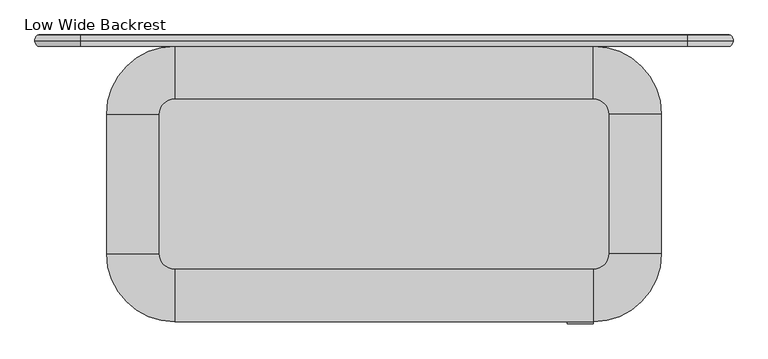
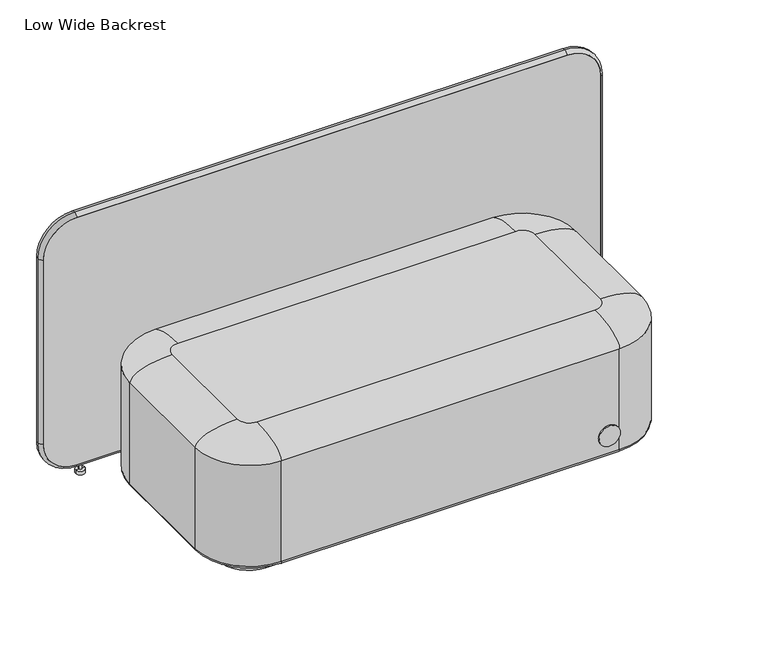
"""IFC4 building model written with IfcOpenShell, lengths in millimetres: furniture geometry, PODLounge  : Low Wide Backrest."""

from ifc_helpers import new_model, si_unit, point, frame, frame_2d, origin, origin_with_axes, place, context, project, spatial, polyline, circle_curve, ellipse_curve, trimmed, segment, composite_curve, outline, extrude, source, transform, mapped, element, save
from ifc_brep_helpers import plane_surface, cylinder_surface, revolved_surface, extruded_surface, advanced_brep


def low_wide_backrest_d1afbaba(model_context):
    return source(origin(), model_context, "Body", "SolidModel", [
        advanced_brep(
        [(-769.9999916, 380.0, 12.0), (-800.0000084, 380.0, 12.0), (-790.0, 380.0, 12.0), (-780.0, 380.0, 12.0), (-790.0, 380.0, 37.4784241), (-780.0, 380.0, 37.4784241), (-785.0, 380.0, 37.4784241), (-785.0, 380.0, 0.0), (-800.0000084, 380.0, 0.0), (-769.9999916, 380.0, 0.0)],
        [
            (0, 1, circle_curve(frame((-785.0, 380.0, 12.0), z_axis=(0.0, 0.0, 1.0), x_axis=(-1.0, 0.0, 0.0)), 15.0000084)),
            (1, 2),
            (2, 3, circle_curve(frame((-785.0, 380.0, 12.0), z_axis=(0.0, 0.0, -1.0), x_axis=(-1.0, 0.0, 0.0)), 5.0)),
            (3, 0),
            (1, 0, circle_curve(frame((-785.0, 380.0, 12.0), z_axis=(0.0, 0.0, 1.0), x_axis=(-1.0, 0.0, 0.0)), 15.0000084)),
            (3, 2, circle_curve(frame((-785.0, 380.0, 12.0), z_axis=(0.0, 0.0, -1.0), x_axis=(-1.0, 0.0, 0.0)), 5.0)),
            (2, 4),
            (4, 5, circle_curve(frame((-785.0, 380.0, 37.4784241), z_axis=(0.0, 0.0, -1.0), x_axis=(-1.0, 0.0, 0.0)), 5.0)),
            (5, 3),
            (5, 4, circle_curve(frame((-785.0, 380.0, 37.4784241), z_axis=(0.0, 0.0, -1.0), x_axis=(-1.0, 0.0, 0.0)), 5.0)),
            (4, 6),
            (6, 5),
            (7, 8),
            (8, 9, circle_curve(frame((-785.0, 380.0, 0.0), z_axis=(0.0, 0.0, -1.0), x_axis=(-1.0, 0.0, 0.0)), 15.0000084)),
            (9, 7),
            (9, 8, circle_curve(frame((-785.0, 380.0, 0.0), z_axis=(0.0, 0.0, -1.0), x_axis=(-1.0, 0.0, 0.0)), 15.0000084)),
            (8, 1),
            (0, 9),
        ],
        [
            plane_surface(frame((-785.0, 380.0, 12.0), z_axis=(0.0, 0.0, 1.0), x_axis=(-1.0, 0.0, 0.0))),
            cylinder_surface(frame((-785.0, 380.0, 37.4784241), z_axis=(0.0, 0.0, -1.0), x_axis=(-1.0, 0.0, 0.0)), 5.0),
            plane_surface(frame((-785.0, 380.0, 37.4784241), z_axis=(0.0, 0.0, 1.0), x_axis=(-1.0, 0.0, 0.0))),
            plane_surface(frame((-785.0, 380.0, 0.0), z_axis=(0.0, 0.0, -1.0), x_axis=(-1.0, 0.0, 0.0))),
            cylinder_surface(frame((-785.0, 380.0, 37.4784241), z_axis=(0.0, 0.0, -1.0), x_axis=(-1.0, 0.0, 0.0)), 15.0000084),
        ],
        [
            (0, [[1, 2, 3, 4]]),
            (0, [[5, -4, 6, -2]]),
            (1, [[-3, 7, 8, 9]]),
            (1, [[-6, -9, 10, -7]]),
            (2, [[-8, 11, 12]]),
            (2, [[-10, -12, -11]]),
            (3, [[13, 14, 15]]),
            (3, [[-15, 16, -13]]),
            (4, [[-14, 17, -1, 18]]),
            (4, [[-16, -18, -5, -17]]),
        ],
    ),
        advanced_brep(
        [(769.9999916, 380.0, 12.0), (780.0, 380.0, 12.0), (790.0, 380.0, 12.0), (800.0000084, 380.0, 12.0), (780.0, 380.0, 37.4784241), (790.0, 380.0, 37.4784241), (785.0, 380.0, 37.4784241), (785.0, 380.0, 0.0), (769.9999916, 380.0, 0.0), (800.0000084, 380.0, 0.0)],
        [
            (0, 1),
            (1, 2, circle_curve(frame((785.0, 380.0, 12.0), z_axis=(0.0, 0.0, -1.0), x_axis=(1.0, 0.0, 0.0)), 5.0)),
            (2, 3),
            (3, 0, circle_curve(frame((785.0, 380.0, 12.0), z_axis=(0.0, 0.0, 1.0), x_axis=(1.0, 0.0, 0.0)), 15.0000084)),
            (2, 1, circle_curve(frame((785.0, 380.0, 12.0), z_axis=(0.0, 0.0, -1.0), x_axis=(1.0, 0.0, 0.0)), 5.0)),
            (0, 3, circle_curve(frame((785.0, 380.0, 12.0), z_axis=(0.0, 0.0, 1.0), x_axis=(1.0, 0.0, 0.0)), 15.0000084)),
            (1, 4),
            (4, 5, circle_curve(frame((785.0, 380.0, 37.4784241), z_axis=(0.0, 0.0, -1.0), x_axis=(1.0, 0.0, 0.0)), 5.0)),
            (5, 2),
            (5, 4, circle_curve(frame((785.0, 380.0, 37.4784241), z_axis=(0.0, 0.0, -1.0), x_axis=(1.0, 0.0, 0.0)), 5.0)),
            (4, 6),
            (6, 5),
            (7, 8),
            (8, 9, circle_curve(frame((785.0, 380.0, 0.0), z_axis=(0.0, 0.0, -1.0), x_axis=(1.0, 0.0, 0.0)), 15.0000084)),
            (9, 7),
            (9, 8, circle_curve(frame((785.0, 380.0, 0.0), z_axis=(0.0, 0.0, -1.0), x_axis=(1.0, 0.0, 0.0)), 15.0000084)),
            (8, 0),
            (3, 9),
        ],
        [
            plane_surface(frame((785.0, 380.0, 12.0), z_axis=(0.0, 0.0, 1.0), x_axis=(1.0, 0.0, 0.0))),
            cylinder_surface(frame((785.0, 380.0, 37.4784241), z_axis=(0.0, 0.0, -1.0), x_axis=(1.0, 0.0, 0.0)), 5.0),
            plane_surface(frame((785.0, 380.0, 37.4784241), z_axis=(0.0, 0.0, 1.0), x_axis=(1.0, 0.0, 0.0))),
            plane_surface(frame((785.0, 380.0, 0.0), z_axis=(0.0, 0.0, -1.0), x_axis=(1.0, 0.0, 0.0))),
            cylinder_surface(frame((785.0, 380.0, 37.4784241), z_axis=(0.0, 0.0, -1.0), x_axis=(1.0, 0.0, 0.0)), 15.0000084),
        ],
        [
            (0, [[1, 2, 3, 4]]),
            (0, [[-3, 5, -1, 6]]),
            (1, [[7, 8, 9, -2]]),
            (1, [[-9, 10, -7, -5]]),
            (2, [[11, 12, -8]]),
            (2, [[-12, -11, -10]]),
            (3, [[13, 14, 15]]),
            (3, [[-15, 16, -13]]),
            (4, [[17, -4, 18, -14]]),
            (4, [[-18, -6, -17, -16]]),
        ],
    ),
        advanced_brep(
        [(915.0, 395.0, 790.0), (915.0, 365.0, 790.0), (805.0, 365.0, 900.0), (805.0, 395.0, 900.0), (915.0, 395.0, 150.0), (915.0, 365.0, 150.0), (805.0, 395.0, 40.0), (805.0, 365.0, 40.0), (-805.0, 395.0, 40.0), (-805.0, 365.0, 40.0), (-915.0, 395.0, 150.0), (-915.0, 365.0, 150.0), (-915.0, 395.0, 790.0), (-915.0, 365.0, 790.0), (-805.0, 395.0, 900.0), (-805.0, 365.0, 900.0), (924.9992342, 379.8143612, 790.0), (805.0, 379.8143612, 909.9992342), (924.9992342, 379.8143612, 150.0), (805.0, 379.8143612, 30.0007658), (-805.0, 379.8143612, 30.0007658), (-924.9992342, 379.8143612, 150.0), (-924.9992342, 379.8143612, 790.0), (-805.0, 379.8143612, 909.9992342)],
        [
            (0, 1),
            (1, 2, circle_curve(frame((805.0, 365.0, 790.0), z_axis=(0.0, -1.0, 0.0), x_axis=(0.0, 0.0, 1.0)), 110.0)),
            (2, 3),
            (3, 0, circle_curve(frame((805.0, 395.0, 790.0), z_axis=(0.0, 1.0, 0.0), x_axis=(0.0, 0.0, 1.0)), 110.0)),
            (0, 4),
            (4, 5),
            (5, 1),
            (6, 7),
            (7, 5, circle_curve(frame((805.0, 365.0, 150.0), z_axis=(0.0, -1.0, 0.0), x_axis=(1.0, 0.0, 0.0)), 110.0)),
            (4, 6, circle_curve(frame((805.0, 395.0, 150.0), z_axis=(0.0, 1.0, 0.0), x_axis=(1.0, 0.0, 0.0)), 110.0)),
            (6, 8),
            (8, 9),
            (9, 7),
            (10, 11),
            (11, 9, circle_curve(frame((-805.0, 365.0, 150.0), z_axis=(0.0, -1.0, 0.0), x_axis=(0.0, 0.0, -1.0)), 110.0)),
            (8, 10, circle_curve(frame((-805.0, 395.0, 150.0), z_axis=(0.0, 1.0, 0.0), x_axis=(0.0, 0.0, -1.0)), 110.0)),
            (10, 12),
            (12, 13),
            (13, 11),
            (14, 15),
            (15, 13, circle_curve(frame((-805.0, 365.0, 790.0), z_axis=(0.0, -1.0, 0.0), x_axis=(-1.0, 0.0, 0.0)), 110.0)),
            (12, 14, circle_curve(frame((-805.0, 395.0, 790.0), z_axis=(0.0, 1.0, 0.0), x_axis=(-1.0, 0.0, 0.0)), 110.0)),
            (14, 3),
            (2, 15),
            (16, 0, ellipse_curve(frame((915.0, 380.0, 790.0), z_axis=(0.0, 0.0, 1.0), x_axis=(0.0, 1.0, 0.0)), 15.0, 10.0)),
            (3, 17, ellipse_curve(frame((805.0, 380.0, 900.0), z_axis=(1.0, 0.0, 0.0), x_axis=(0.0, 1.0, 0.0)), 15.0, 10.0)),
            (17, 16, circle_curve(frame((805.0, 379.8143612, 790.0), z_axis=(0.0, 1.0, 0.0), x_axis=(0.0, 0.0, 1.0)), 119.9992342)),
            (1, 16, ellipse_curve(frame((915.0, 380.0, 790.0), z_axis=(0.0, 0.0, 1.0), x_axis=(0.0, 1.0, 0.0)), 15.0, 10.0)),
            (17, 2, ellipse_curve(frame((805.0, 380.0, 900.0), z_axis=(1.0, 0.0, 0.0), x_axis=(0.0, 1.0, 0.0)), 15.0, 10.0)),
            (16, 18),
            (18, 4, ellipse_curve(frame((915.0, 380.0, 150.0), z_axis=(0.0, 0.0, 1.0), x_axis=(0.0, 1.0, 0.0)), 15.0, 10.0)),
            (5, 18, ellipse_curve(frame((915.0, 380.0, 150.0), z_axis=(0.0, 0.0, 1.0), x_axis=(0.0, 1.0, 0.0)), 15.0, 10.0)),
            (19, 6, ellipse_curve(frame((805.0, 380.0, 40.0), z_axis=(1.0, 0.0, 0.0), x_axis=(0.0, 1.0, 0.0)), 15.0, 10.0)),
            (18, 19, circle_curve(frame((805.0, 379.8143612, 150.0), z_axis=(0.0, 1.0, 0.0), x_axis=(1.0, 0.0, 0.0)), 119.9992342)),
            (7, 19, ellipse_curve(frame((805.0, 380.0, 40.0), z_axis=(1.0, 0.0, 0.0), x_axis=(0.0, 1.0, 0.0)), 15.0, 10.0)),
            (19, 20),
            (20, 8, ellipse_curve(frame((-805.0, 380.0, 40.0), z_axis=(1.0, 0.0, 0.0), x_axis=(0.0, 1.0, 0.0)), 15.0, 10.0)),
            (9, 20, ellipse_curve(frame((-805.0, 380.0, 40.0), z_axis=(1.0, 0.0, 0.0), x_axis=(0.0, 1.0, 0.0)), 15.0, 10.0)),
            (21, 10, ellipse_curve(frame((-915.0, 380.0, 150.0), z_axis=(0.0, 0.0, -1.0), x_axis=(0.0, 1.0, 0.0)), 15.0, 10.0)),
            (20, 21, circle_curve(frame((-805.0, 379.8143612, 150.0), z_axis=(0.0, 1.0, 0.0), x_axis=(0.0, 0.0, -1.0)), 119.9992342)),
            (11, 21, ellipse_curve(frame((-915.0, 380.0, 150.0), z_axis=(0.0, 0.0, -1.0), x_axis=(0.0, 1.0, 0.0)), 15.0, 10.0)),
            (21, 22),
            (22, 12, ellipse_curve(frame((-915.0, 380.0, 790.0), z_axis=(0.0, 0.0, -1.0), x_axis=(0.0, 1.0, 0.0)), 15.0, 10.0)),
            (13, 22, ellipse_curve(frame((-915.0, 380.0, 790.0), z_axis=(0.0, 0.0, -1.0), x_axis=(0.0, 1.0, 0.0)), 15.0, 10.0)),
            (23, 14, ellipse_curve(frame((-805.0, 380.0, 900.0), z_axis=(-1.0, 0.0, 0.0), x_axis=(0.0, 1.0, 0.0)), 15.0, 10.0)),
            (22, 23, circle_curve(frame((-805.0, 379.8143612, 790.0), z_axis=(0.0, 1.0, 0.0), x_axis=(-1.0, 0.0, 0.0)), 119.9992342)),
            (15, 23, ellipse_curve(frame((-805.0, 380.0, 900.0), z_axis=(-1.0, 0.0, 0.0), x_axis=(0.0, 1.0, 0.0)), 15.0, 10.0)),
            (23, 17),
        ],
        [
            revolved_surface(polyline([(805.0, 365.0, 900.0), (805.0, 395.0, 900.0)]), (805.0, 395.0, 790.0), (0.0, -1.0, 0.0)),
            plane_surface(frame((915.0, 365.0, 790.0), z_axis=(-1.0, 0.0, 0.0), x_axis=(0.0, 0.0, -1.0))),
            revolved_surface(polyline([(915.0, 365.0, 150.0), (915.0, 395.0, 150.0)]), (805.0, 395.0, 150.0), (0.0, -1.0, 0.0)),
            plane_surface(frame((805.0, 365.0, 40.0), z_axis=(0.0, 0.0, 1.0), x_axis=(-1.0, 0.0, 0.0))),
            revolved_surface(polyline([(-805.0, 365.0, 40.0), (-805.0, 395.0, 40.0)]), (-805.0, 395.0, 150.0), (0.0, -1.0, 0.0)),
            plane_surface(frame((-915.0, 365.0, 150.0), z_axis=(1.0, 0.0, 0.0), x_axis=(0.0, 0.0, 1.0))),
            revolved_surface(polyline([(-915.0, 365.0, 790.0), (-915.0, 395.0, 790.0)]), (-805.0, 395.0, 790.0), (0.0, -1.0, 0.0)),
            plane_surface(frame((-805.0, 365.0, 900.0), z_axis=(0.0, 0.0, -1.0), x_axis=(1.0, 0.0, 0.0))),
            revolved_surface(trimmed(ellipse_curve(frame((805.0, 380.0, 900.0), z_axis=(1.0, 0.0, 0.0), x_axis=(0.0, 1.0, 0.0)), 15.0, 10.0), [point((805.0, 395.0, 900.0))], [point((805.0, 379.8143612, 909.9992342))], True, "CARTESIAN"), (805.0, 395.0, 790.0), (0.0, -1.0, 0.0)),
            revolved_surface(trimmed(ellipse_curve(frame((805.0, 380.0, 900.0), z_axis=(1.0, 0.0, 0.0), x_axis=(0.0, 1.0, 0.0)), 15.0, 10.0), [point((805.0, 379.8143612, 909.9992342))], [point((805.0, 365.0, 900.0))], True, "CARTESIAN"), (805.0, 395.0, 790.0), (0.0, -1.0, 0.0)),
            extruded_surface(trimmed(ellipse_curve(frame((915.0, 380.0, 790.0), z_axis=(0.0, 0.0, -1.0), x_axis=(0.0, 1.0, 0.0)), 15.0, 10.0), [point((915.0, 395.0, 790.0))], [point((924.9992342, 379.8143612, 790.0))], True, "CARTESIAN"), (0.0, 0.0, -640.0), 640.0),
            extruded_surface(trimmed(ellipse_curve(frame((915.0, 380.0, 790.0), z_axis=(0.0, 0.0, -1.0), x_axis=(0.0, 1.0, 0.0)), 15.0, 10.0), [point((924.9992342, 379.8143612, 790.0))], [point((915.0, 365.0, 790.0))], True, "CARTESIAN"), (0.0, 0.0, -640.0), 640.0),
            revolved_surface(trimmed(ellipse_curve(frame((915.0, 380.0, 150.0), z_axis=(0.0, 0.0, -1.0), x_axis=(0.0, 1.0, 0.0)), 15.0, 10.0), [point((915.0, 395.0, 150.0))], [point((924.9992342, 379.8143612, 150.0))], True, "CARTESIAN"), (805.0, 395.0, 150.0), (0.0, -1.0, 0.0)),
            revolved_surface(trimmed(ellipse_curve(frame((915.0, 380.0, 150.0), z_axis=(0.0, 0.0, -1.0), x_axis=(0.0, 1.0, 0.0)), 15.0, 10.0), [point((924.9992342, 379.8143612, 150.0))], [point((915.0, 365.0, 150.0))], True, "CARTESIAN"), (805.0, 395.0, 150.0), (0.0, -1.0, 0.0)),
            extruded_surface(trimmed(ellipse_curve(frame((805.0, 380.0, 40.0), z_axis=(-1.0, 0.0, 0.0), x_axis=(0.0, 1.0, 0.0)), 15.0, 10.0), [point((805.0, 395.0, 40.0))], [point((805.0, 379.8143612, 30.0007658))], True, "CARTESIAN"), (-1610.0, 0.0, 0.0), 1610.0),
            extruded_surface(trimmed(ellipse_curve(frame((805.0, 380.0, 40.0), z_axis=(-1.0, 0.0, 0.0), x_axis=(0.0, 1.0, 0.0)), 15.0, 10.0), [point((805.0, 379.8143612, 30.0007658))], [point((805.0, 365.0, 40.0))], True, "CARTESIAN"), (-1610.0, 0.0, 0.0), 1610.0),
            revolved_surface(trimmed(ellipse_curve(frame((-805.0, 380.0, 40.0), z_axis=(-1.0, 0.0, 0.0), x_axis=(0.0, 1.0, 0.0)), 15.0, 10.0), [point((-805.0, 395.0, 40.0))], [point((-805.0, 379.8143612, 30.0007658))], True, "CARTESIAN"), (-805.0, 395.0, 150.0), (0.0, -1.0, 0.0)),
            revolved_surface(trimmed(ellipse_curve(frame((-805.0, 380.0, 40.0), z_axis=(-1.0, 0.0, 0.0), x_axis=(0.0, 1.0, 0.0)), 15.0, 10.0), [point((-805.0, 379.8143612, 30.0007658))], [point((-805.0, 365.0, 40.0))], True, "CARTESIAN"), (-805.0, 395.0, 150.0), (0.0, -1.0, 0.0)),
            extruded_surface(trimmed(ellipse_curve(frame((-915.0, 380.0, 150.0), z_axis=(0.0, 0.0, 1.0), x_axis=(0.0, 1.0, 0.0)), 15.0, 10.0), [point((-915.0, 395.0, 150.0))], [point((-924.9992342, 379.8143612, 150.0))], True, "CARTESIAN"), (0.0, 0.0, 640.0), 640.0),
            extruded_surface(trimmed(ellipse_curve(frame((-915.0, 380.0, 150.0), z_axis=(0.0, 0.0, 1.0), x_axis=(0.0, 1.0, 0.0)), 15.0, 10.0), [point((-924.9992342, 379.8143612, 150.0))], [point((-915.0, 365.0, 150.0))], True, "CARTESIAN"), (0.0, 0.0, 640.0), 640.0),
            revolved_surface(trimmed(ellipse_curve(frame((-915.0, 380.0, 790.0), z_axis=(0.0, 0.0, 1.0), x_axis=(0.0, 1.0, 0.0)), 15.0, 10.0), [point((-915.0, 395.0, 790.0))], [point((-924.9992342, 379.8143612, 790.0))], True, "CARTESIAN"), (-805.0, 395.0, 790.0), (0.0, -1.0, 0.0)),
            revolved_surface(trimmed(ellipse_curve(frame((-915.0, 380.0, 790.0), z_axis=(0.0, 0.0, 1.0), x_axis=(0.0, 1.0, 0.0)), 15.0, 10.0), [point((-924.9992342, 379.8143612, 790.0))], [point((-915.0, 365.0, 790.0))], True, "CARTESIAN"), (-805.0, 395.0, 790.0), (0.0, -1.0, 0.0)),
            extruded_surface(trimmed(ellipse_curve(frame((-805.0, 380.0, 900.0), z_axis=(1.0, 0.0, 0.0), x_axis=(0.0, 1.0, 0.0)), 15.0, 10.0), [point((-805.0, 395.0, 900.0))], [point((-805.0, 379.8143612, 909.9992342))], True, "CARTESIAN"), (1610.0, 0.0, 0.0), 1610.0),
            extruded_surface(trimmed(ellipse_curve(frame((-805.0, 380.0, 900.0), z_axis=(1.0, 0.0, 0.0), x_axis=(0.0, 1.0, 0.0)), 15.0, 10.0), [point((-805.0, 379.8143612, 909.9992342))], [point((-805.0, 365.0, 900.0))], True, "CARTESIAN"), (1610.0, 0.0, 0.0), 1610.0),
        ],
        [
            (0, [[1, 2, 3, 4]]),
            (1, [[5, 6, 7, -1]]),
            (2, [[8, 9, -6, 10]]),
            (3, [[11, 12, 13, -8]]),
            (4, [[14, 15, -12, 16]]),
            (5, [[17, 18, 19, -14]]),
            (6, [[20, 21, -18, 22]]),
            (7, [[23, -3, 24, -20]]),
            (8, [[25, -4, 26, 27]]),
            (9, [[28, -27, 29, -2]]),
            (10, [[30, 31, -5, -25]]),
            (11, [[-7, 32, -30, -28]]),
            (12, [[33, -10, -31, 34]]),
            (13, [[35, -34, -32, -9]]),
            (14, [[36, 37, -11, -33]]),
            (15, [[-13, 38, -36, -35]]),
            (16, [[39, -16, -37, 40]]),
            (17, [[41, -40, -38, -15]]),
            (18, [[42, 43, -17, -39]]),
            (19, [[-19, 44, -42, -41]]),
            (20, [[45, -22, -43, 46]]),
            (21, [[47, -46, -44, -21]]),
            (22, [[48, -26, -23, -45]]),
            (23, [[-24, -29, -48, -47]]),
        ],
    ),
        extrude(outline(composite_curve([segment(polyline([(900.0, 805.0), (900.0, -805.0)]), True, "CONTINUOUS"), segment(trimmed(circle_curve(frame_2d((790.0, -805.0)), 110.0), [point((900.0, -805.0))], [point((790.0, -915.0))], False, "CARTESIAN"), True, "CONTINUOUS"), segment(polyline([(790.0, -915.0), (150.0, -915.0)]), True, "CONTINUOUS"), segment(trimmed(circle_curve(frame_2d((150.0, -805.0)), 110.0), [point((150.0, -915.0))], [point((40.0, -805.0))], False, "CARTESIAN"), True, "CONTINUOUS"), segment(polyline([(40.0, -805.0), (40.0, 805.0)]), True, "CONTINUOUS"), segment(trimmed(circle_curve(frame_2d((150.0, 805.0)), 110.0), [point((40.0, 805.0))], [point((150.0, 915.0))], False, "CARTESIAN"), True, "CONTINUOUS"), segment(polyline([(150.0, 915.0), (790.0, 915.0)]), True, "CONTINUOUS"), segment(trimmed(circle_curve(frame_2d((790.0, 805.0)), 110.0), [point((790.0, 915.0))], [point((900.0, 805.0))], False, "CARTESIAN"), True, "CONTINUOUS")], self_intersect=False)), frame((0.0, 365.0, 0.0), z_axis=(0.0, 1.0, 0.0), x_axis=(0.0, 0.0, 1.0)), (0.0, 0.0, 1.0), 30.0),
        advanced_brep(
        [(-555.0, 225.0, 460.0), (-595.0, 185.0, 460.0), (-595.0, -185.0, 460.0), (-555.0, -225.0, 460.0), (555.0, -225.0, 460.0), (595.0, -185.0, 460.0), (595.0, 185.0, 460.0), (555.0, 225.0, 460.0), (-725.0, 185.0, 50.0), (-555.0, 355.0, 50.0), (555.0, 355.0, 50.0), (725.0, 185.0, 50.0), (725.0, -185.0, 50.0), (555.0, -355.0, 50.0), (-555.0, -355.0, 50.0), (-725.0, -185.0, 50.0), (555.0, -365.0, 410.0), (555.0, -365.0, 60.0), (735.0, -185.0, 60.0), (735.0, -185.0, 410.0), (735.0, 185.0, 60.0), (735.0, 185.0, 410.0), (555.0, 365.0, 60.0), (555.0, 365.0, 410.0), (-555.0, 365.0, 60.0), (-555.0, 365.0, 410.0), (-735.0, 185.0, 410.0), (-735.0, 185.0, 60.0), (-735.0, -185.0, 60.0), (-735.0, -185.0, 410.0), (-555.0, -365.0, 410.0), (-555.0, -365.0, 60.0)],
        [
            (0, 1, circle_curve(frame((-555.0, 185.0, 460.0), z_axis=(0.0, 0.0, 1.0), x_axis=(0.0, 1.0, 0.0)), 40.0)),
            (1, 2),
            (2, 3, circle_curve(frame((-555.0, -185.0, 460.0), z_axis=(0.0, 0.0, 1.0), x_axis=(-1.0, 0.0, 0.0)), 40.0)),
            (3, 4),
            (4, 5, circle_curve(frame((555.0, -185.0, 460.0), z_axis=(0.0, 0.0, 1.0), x_axis=(0.0, -1.0, 0.0)), 40.0)),
            (5, 6),
            (6, 7, circle_curve(frame((555.0, 185.0, 460.0), z_axis=(0.0, 0.0, 1.0), x_axis=(1.0, 0.0, 0.0)), 40.0)),
            (7, 0),
            (8, 9, circle_curve(frame((-555.0, 185.0, 50.0), z_axis=(0.0, 0.0, -1.0), x_axis=(0.0, 1.0, 0.0)), 170.0)),
            (9, 10),
            (10, 11, circle_curve(frame((555.0, 185.0, 50.0), z_axis=(0.0, 0.0, -1.0), x_axis=(1.0, 0.0, 0.0)), 170.0)),
            (11, 12),
            (12, 13, circle_curve(frame((555.0, -185.0, 50.0), z_axis=(0.0, 0.0, -1.0), x_axis=(0.0, -1.0, 0.0)), 170.0)),
            (13, 14),
            (14, 15, circle_curve(frame((-555.0, -185.0, 50.0), z_axis=(0.0, 0.0, -1.0), x_axis=(-1.0, 0.0, 0.0)), 170.0)),
            (15, 8),
            (16, 17),
            (17, 18, circle_curve(frame((555.0, -185.0, 60.0), z_axis=(0.0, 0.0, 1.0), x_axis=(1.0, 0.0, 0.0)), 180.0)),
            (18, 19),
            (19, 16, circle_curve(frame((555.0, -185.0, 410.0), z_axis=(0.0, 0.0, -1.0), x_axis=(1.0, 0.0, 0.0)), 180.0)),
            (18, 20),
            (20, 21),
            (21, 19),
            (20, 22, circle_curve(frame((555.0, 185.0, 60.0), z_axis=(0.0, 0.0, 1.0), x_axis=(1.0, 0.0, 0.0)), 180.0)),
            (22, 23),
            (23, 21, circle_curve(frame((555.0, 185.0, 410.0), z_axis=(0.0, 0.0, -1.0), x_axis=(1.0, 0.0, 0.0)), 180.0)),
            (22, 24),
            (24, 25),
            (25, 23),
            (26, 27),
            (27, 28),
            (28, 29),
            (29, 26),
            (16, 30),
            (30, 31),
            (31, 17),
            (26, 25, circle_curve(frame((-555.0, 185.0, 410.0), z_axis=(0.0, 0.0, -1.0), x_axis=(1.0, 0.0, 0.0)), 180.0)),
            (24, 27, circle_curve(frame((-555.0, 185.0, 60.0), z_axis=(0.0, 0.0, 1.0), x_axis=(1.0, 0.0, 0.0)), 180.0)),
            (30, 29, circle_curve(frame((-555.0, -185.0, 410.0), z_axis=(0.0, 0.0, -1.0), x_axis=(1.0, 0.0, 0.0)), 180.0)),
            (28, 31, circle_curve(frame((-555.0, -185.0, 60.0), z_axis=(0.0, 0.0, 1.0), x_axis=(1.0, 0.0, 0.0)), 180.0)),
            (26, 1, ellipse_curve(frame((-595.0, 185.0, 410.0), z_axis=(0.0, 1.0, 0.0), x_axis=(-1.0, 0.0, 0.0)), 140.0, 50.0)),
            (0, 25, ellipse_curve(frame((-555.0, 225.0, 410.0), z_axis=(-1.0, 0.0, 0.0), x_axis=(0.0, 1.0, 0.0)), 140.0, 50.0)),
            (29, 2, ellipse_curve(frame((-595.0, -185.0, 410.0), z_axis=(0.0, 1.0, 0.0), x_axis=(-1.0, 0.0, 0.0)), 140.0, 50.0)),
            (30, 3, ellipse_curve(frame((-555.0, -225.0, 410.0), z_axis=(-1.0, 0.0, 0.0), x_axis=(0.0, -1.0, 0.0)), 140.0, 50.0)),
            (16, 4, ellipse_curve(frame((555.0, -225.0, 410.0), z_axis=(-1.0, 0.0, 0.0), x_axis=(0.0, -1.0, 0.0)), 140.0, 50.0)),
            (19, 5, ellipse_curve(frame((595.0, -185.0, 410.0), z_axis=(0.0, -1.0, 0.0), x_axis=(1.0, 0.0, 0.0)), 140.0, 50.0)),
            (21, 6, ellipse_curve(frame((595.0, 185.0, 410.0), z_axis=(0.0, -1.0, 0.0), x_axis=(1.0, 0.0, 0.0)), 140.0, 50.0)),
            (23, 7, ellipse_curve(frame((555.0, 225.0, 410.0), z_axis=(1.0, 0.0, 0.0), x_axis=(0.0, 1.0, 0.0)), 140.0, 50.0)),
            (8, 27, circle_curve(frame((-725.0, 185.0, 60.0), z_axis=(0.0, 1.0, 0.0), x_axis=(1.0, 0.0, 0.0)), 10.0)),
            (24, 9, circle_curve(frame((-555.0, 355.0, 60.0), z_axis=(-1.0, 0.0, 0.0), x_axis=(0.0, -1.0, 0.0)), 10.0)),
            (15, 28, circle_curve(frame((-725.0, -185.0, 60.0), z_axis=(0.0, 1.0, 0.0), x_axis=(1.0, 0.0, 0.0)), 10.0)),
            (14, 31, circle_curve(frame((-555.0, -355.0, 60.0), z_axis=(-1.0, 0.0, 0.0), x_axis=(0.0, 1.0, 0.0)), 10.0)),
            (13, 17, circle_curve(frame((555.0, -355.0, 60.0), z_axis=(-1.0, 0.0, 0.0), x_axis=(0.0, 1.0, 0.0)), 10.0)),
            (12, 18, circle_curve(frame((725.0, -185.0, 60.0), z_axis=(0.0, -1.0, 0.0), x_axis=(-1.0, 0.0, 0.0)), 10.0)),
            (11, 20, circle_curve(frame((725.0, 185.0, 60.0), z_axis=(0.0, -1.0, 0.0), x_axis=(-1.0, 0.0, 0.0)), 10.0)),
            (10, 22, circle_curve(frame((555.0, 355.0, 60.0), z_axis=(1.0, 0.0, 0.0), x_axis=(0.0, -1.0, 0.0)), 10.0)),
        ],
        [
            plane_surface(frame((735.0, -185.0, 460.0), z_axis=(0.0, 0.0, 1.0), x_axis=(0.0, 1.0, 0.0))),
            plane_surface(frame((735.0, -185.0, 50.0), z_axis=(0.0, 0.0, -1.0), x_axis=(0.0, -1.0, 0.0))),
            cylinder_surface(frame((555.0, -185.0, 50.0), z_axis=(0.0, 0.0, 1.0), x_axis=(1.0, 0.0, 0.0)), 180.0),
            plane_surface(frame((735.0, -185.0, 460.0), z_axis=(1.0, 0.0, 0.0), x_axis=(0.0, 0.0, -1.0))),
            cylinder_surface(frame((555.0, 185.0, 50.0), z_axis=(0.0, 0.0, 1.0), x_axis=(1.0, 0.0, 0.0)), 180.0),
            plane_surface(frame((555.0, 365.0, 460.0), z_axis=(0.0, 1.0, 0.0), x_axis=(0.0, 0.0, -1.0))),
            plane_surface(frame((-735.0, 185.0, 460.0), z_axis=(-1.0, 0.0, 0.0), x_axis=(0.0, 0.0, -1.0))),
            plane_surface(frame((-555.0, -365.0, 460.0), z_axis=(0.0, -1.0, 0.0), x_axis=(0.0, 0.0, -1.0))),
            cylinder_surface(frame((-555.0, 185.0, 50.0), z_axis=(0.0, 0.0, 1.0), x_axis=(1.0, 0.0, 0.0)), 180.0),
            cylinder_surface(frame((-555.0, -185.0, 50.0), z_axis=(0.0, 0.0, 1.0), x_axis=(1.0, 0.0, 0.0)), 180.0),
            revolved_surface(trimmed(ellipse_curve(frame((-555.0, 225.0, 410.0), z_axis=(1.0, 0.0, 0.0), x_axis=(0.0, 1.0, 0.0)), 140.0, 50.0), [point((-555.0, 365.0, 410.0))], [point((-555.0, 225.0, 460.0))], True, "CARTESIAN"), (-555.0, 185.0, 0.0), (0.0, 0.0, 1.0)),
            extruded_surface(trimmed(ellipse_curve(frame((-595.0, 185.0, 410.0), z_axis=(0.0, -1.0, 0.0), x_axis=(-1.0, 0.0, 0.0)), 140.0, 50.0), [point((-595.0, 185.0, 460.0))], [point((-735.0, 185.0, 410.0))], True, "CARTESIAN"), (0.0, -370.0, 0.0), 370.0),
            revolved_surface(trimmed(ellipse_curve(frame((-595.0, -185.0, 410.0), z_axis=(0.0, 1.0, 0.0), x_axis=(-1.0, 0.0, 0.0)), 140.0, 50.0), [point((-735.0, -185.0, 410.0))], [point((-595.0, -185.0, 460.0))], True, "CARTESIAN"), (-555.0, -185.0, 0.0), (0.0, 0.0, 1.0)),
            extruded_surface(trimmed(ellipse_curve(frame((-555.0, -225.0, 410.0), z_axis=(1.0, 0.0, 0.0), x_axis=(0.0, -1.0, 0.0)), 140.0, 50.0), [point((-555.0, -225.0, 460.0))], [point((-555.0, -365.0, 410.0))], True, "CARTESIAN"), (1110.0, 0.0, 0.0), 1110.0),
            revolved_surface(trimmed(ellipse_curve(frame((555.0, -225.0, 410.0), z_axis=(-1.0, 0.0, 0.0), x_axis=(0.0, -1.0, 0.0)), 140.0, 50.0), [point((555.0, -365.0, 410.0))], [point((555.0, -225.0, 460.0))], True, "CARTESIAN"), (555.0, -185.0, 0.0), (0.0, 0.0, 1.0)),
            extruded_surface(trimmed(ellipse_curve(frame((595.0, -185.0, 410.0), z_axis=(0.0, 1.0, 0.0), x_axis=(1.0, 0.0, 0.0)), 140.0, 50.0), [point((595.0, -185.0, 460.0))], [point((735.0, -185.0, 410.0))], True, "CARTESIAN"), (0.0, 370.0, 0.0), 370.0),
            revolved_surface(trimmed(ellipse_curve(frame((595.0, 185.0, 410.0), z_axis=(0.0, -1.0, 0.0), x_axis=(1.0, 0.0, 0.0)), 140.0, 50.0), [point((735.0, 185.0, 410.0))], [point((595.0, 185.0, 460.0))], True, "CARTESIAN"), (555.0, 185.0, 0.0), (0.0, 0.0, 1.0)),
            extruded_surface(trimmed(ellipse_curve(frame((555.0, 225.0, 410.0), z_axis=(-1.0, 0.0, 0.0), x_axis=(0.0, 1.0, 0.0)), 140.0, 50.0), [point((555.0, 225.0, 460.0))], [point((555.0, 365.0, 410.0))], True, "CARTESIAN"), (-1110.0, 0.0, 0.0), 1110.0),
            revolved_surface(trimmed(ellipse_curve(frame((-555.0, 355.0, 60.0), z_axis=(1.0, 0.0, 0.0), x_axis=(0.0, -1.0, 0.0)), 10.0, 10.0), [point((-555.0, 355.0, 50.0))], [point((-555.0, 365.0, 60.0))], True, "CARTESIAN"), (-555.0, 185.0, 0.0), (0.0, 0.0, 1.0)),
            cylinder_surface(frame((-725.0, 185.0, 60.0), z_axis=(0.0, -1.0, 0.0), x_axis=(1.0, 0.0, 0.0)), 10.0),
            revolved_surface(trimmed(ellipse_curve(frame((-725.0, -185.0, 60.0), z_axis=(0.0, 1.0, 0.0), x_axis=(1.0, 0.0, 0.0)), 10.0, 10.0), [point((-725.0, -185.0, 50.0))], [point((-735.0, -185.0, 60.0))], True, "CARTESIAN"), (-555.0, -185.0, 0.0), (0.0, 0.0, 1.0)),
            cylinder_surface(frame((-555.0, -355.0, 60.0), z_axis=(1.0, 0.0, 0.0), x_axis=(0.0, 1.0, 0.0)), 10.0),
            revolved_surface(trimmed(ellipse_curve(frame((555.0, -355.0, 60.0), z_axis=(-1.0, 0.0, 0.0), x_axis=(0.0, 1.0, 0.0)), 10.0, 10.0), [point((555.0, -355.0, 50.0))], [point((555.0, -365.0, 60.0))], True, "CARTESIAN"), (555.0, -185.0, 0.0), (0.0, 0.0, 1.0)),
            cylinder_surface(frame((725.0, -185.0, 60.0), z_axis=(0.0, 1.0, 0.0), x_axis=(-1.0, 0.0, 0.0)), 10.0),
            revolved_surface(trimmed(ellipse_curve(frame((725.0, 185.0, 60.0), z_axis=(0.0, -1.0, 0.0), x_axis=(-1.0, 0.0, 0.0)), 10.0, 10.0), [point((725.0, 185.0, 50.0))], [point((735.0, 185.0, 60.0))], True, "CARTESIAN"), (555.0, 185.0, 0.0), (0.0, 0.0, 1.0)),
            cylinder_surface(frame((555.0, 355.0, 60.0), z_axis=(-1.0, 0.0, 0.0), x_axis=(0.0, -1.0, 0.0)), 10.0),
        ],
        [
            (0, [[1, 2, 3, 4, 5, 6, 7, 8]]),
            (1, [[9, 10, 11, 12, 13, 14, 15, 16]]),
            (2, [[17, 18, 19, 20]]),
            (3, [[-19, 21, 22, 23]]),
            (4, [[-22, 24, 25, 26]]),
            (5, [[-25, 27, 28, 29]]),
            (6, [[30, 31, 32, 33]]),
            (7, [[-17, 34, 35, 36]]),
            (8, [[-30, 37, -28, 38]]),
            (9, [[-35, 39, -32, 40]]),
            (10, [[41, -1, 42, -37]]),
            (11, [[-41, -33, 43, -2]]),
            (12, [[-43, -39, 44, -3]]),
            (13, [[-44, -34, 45, -4]]),
            (14, [[-45, -20, 46, -5]]),
            (15, [[-46, -23, 47, -6]]),
            (16, [[-47, -26, 48, -7]]),
            (17, [[-42, -8, -48, -29]]),
            (18, [[49, -38, 50, -9]]),
            (19, [[-49, -16, 51, -31]]),
            (20, [[-51, -15, 52, -40]]),
            (21, [[-52, -14, 53, -36]]),
            (22, [[-53, -13, 54, -18]]),
            (23, [[-54, -12, 55, -21]]),
            (24, [[-55, -11, 56, -24]]),
            (25, [[-50, -27, -56, -10]]),
        ],
    ),
        extrude(outline(composite_curve([segment(polyline([(565.0, -295.0), (-565.0, -295.0)]), True, "CONTINUOUS"), segment(trimmed(circle_curve(frame_2d((-565.0, -195.0)), 100.0), [point((-565.0, -295.0))], [point((-665.0, -195.0))], False, "CARTESIAN"), True, "CONTINUOUS"), segment(polyline([(-665.0, -195.0), (-665.0, 195.0)]), True, "CONTINUOUS"), segment(trimmed(circle_curve(frame_2d((-565.0, 195.0)), 100.0), [point((-665.0, 195.0))], [point((-565.0, 295.0))], False, "CARTESIAN"), True, "CONTINUOUS"), segment(polyline([(-565.0, 295.0), (565.0, 295.0)]), True, "CONTINUOUS"), segment(trimmed(circle_curve(frame_2d((565.0, 195.0)), 100.0), [point((565.0, 295.0))], [point((665.0, 195.0))], False, "CARTESIAN"), True, "CONTINUOUS"), segment(polyline([(665.0, 195.0), (665.0, -195.0)]), True, "CONTINUOUS"), segment(trimmed(circle_curve(frame_2d((565.0, -195.0)), 100.0), [point((665.0, -195.0))], [point((565.0, -295.0))], False, "CARTESIAN"), True, "CONTINUOUS")], self_intersect=False)), origin_with_axes(), (0.0, 0.0, 1.0), 50.0),
        extrude(outline(composite_curve([segment(trimmed(circle_curve(frame_2d((122.8625944, 520.0)), 35.0), [point((122.8625944, 555.0))], [point((122.8625944, 485.0))], False, "CARTESIAN"), True, "CONTINUOUS"), segment(trimmed(circle_curve(frame_2d((122.8625944, 520.0)), 35.0), [point((122.8625944, 485.0))], [point((122.8625944, 555.0))], False, "CARTESIAN"), True, "CONTINUOUS")], self_intersect=False)), frame((0.0, -370.0, 0.0), z_axis=(0.0, 1.0, 0.0), x_axis=(0.0, 0.0, 1.0)), (0.0, 0.0, 1.0), 5.0),
    ])


if __name__ == "__main__":
    model = new_model("IFC4")
    model_context = context("Model", 3, world=origin())
    ifc_project = project(units=[si_unit("LENGTHUNIT", "METRE", prefix="MILLI")], contexts=[model_context])
    site = spatial("IfcSite", under=ifc_project)
    building = spatial("IfcBuilding", under=site)
    placement = place(None, origin())
    low_wide_backrest_shape = low_wide_backrest_d1afbaba(model_context)
    element("IfcFurniture", 1, ObjectType="PODLounge  : Low Wide Backrest", at=placement, inside=building, context=model_context, shape_type="MappedRepresentation", body=[
        mapped(low_wide_backrest_shape, transform((0.0, 0.0, 0.0), x_axis=(1.0, 0.0, 0.0), y_axis=(0.0, 1.0, 0.0), z_axis=(0.0, 0.0, 1.0))),
    ])
    save(model, "model.ifc")
